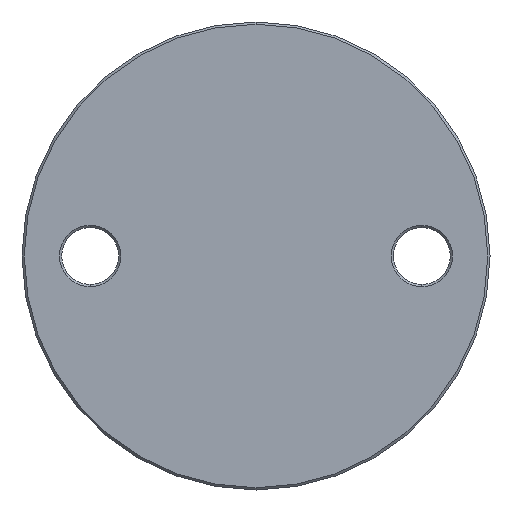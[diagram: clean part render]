
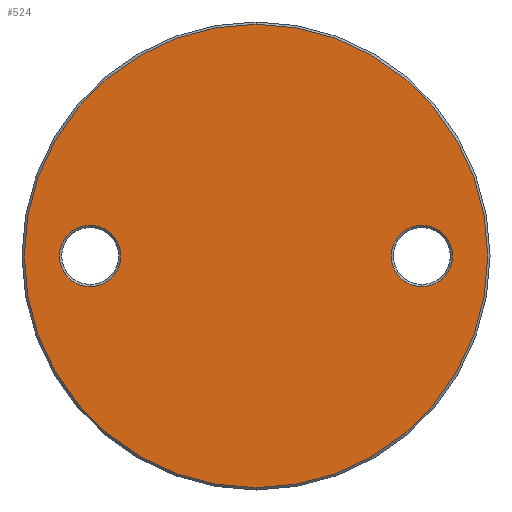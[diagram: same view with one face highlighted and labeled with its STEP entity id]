
A CAD part, front view. The second image highlights one B-rep face of the part: STEP entity #524.
In plain terms, the highlighted planar face has unit normal (0, -1, 0).
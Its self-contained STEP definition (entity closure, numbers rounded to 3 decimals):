
#308 = DIRECTION ( 'NONE',  ( 0., 1., 0. ) ) ;
#408 = FACE_OUTER_BOUND ( 'NONE', #1628, .T. ) ;
#411 = CARTESIAN_POINT ( 'NONE',  ( -36.5, -3., 0. ) ) ;
#437 = EDGE_CURVE ( 'NONE', #1285, #2777, #2104, .T. ) ;
#524 = ADVANCED_FACE ( 'NONE', ( #3980, #4149, #408 ), #2994, .T. ) ;
#546 = CARTESIAN_POINT ( 'NONE',  ( 0., -3., 51. ) ) ;
#689 = DIRECTION ( 'NONE',  ( 0., 0., -1. ) ) ;
#821 = VERTEX_POINT ( 'NONE', #3157 ) ;
#863 = EDGE_CURVE ( 'NONE', #821, #4047, #3787, .T. ) ;
#934 = DIRECTION ( 'NONE',  ( 0., -1., 0. ) ) ;
#935 = CARTESIAN_POINT ( 'NONE',  ( 36.5, -3., 0. ) ) ;
#943 = CARTESIAN_POINT ( 'NONE',  ( 36.5, -3., 6.75 ) ) ;
#996 = DIRECTION ( 'NONE',  ( 0., 0., -1. ) ) ;
#1019 = EDGE_LOOP ( 'NONE', ( #2332, #2993 ) ) ;
#1083 = DIRECTION ( 'NONE',  ( 0., -1., 0. ) ) ;
#1142 = DIRECTION ( 'NONE',  ( 0., 1., 0. ) ) ;
#1240 = CARTESIAN_POINT ( 'NONE',  ( -36.5, -3., 6.75 ) ) ;
#1261 = AXIS2_PLACEMENT_3D ( 'NONE', #2180, #1083, #2611 ) ;
#1285 = VERTEX_POINT ( 'NONE', #2067 ) ;
#1448 = CIRCLE ( 'NONE', #4790, 6.75 ) ;
#1505 = CARTESIAN_POINT ( 'NONE',  ( -36.5, -3., 0. ) ) ;
#1525 = AXIS2_PLACEMENT_3D ( 'NONE', #4652, #934, #996 ) ;
#1606 = CIRCLE ( 'NONE', #1880, 6.75 ) ;
#1628 = EDGE_LOOP ( 'NONE', ( #3776, #3149 ) ) ;
#1880 = AXIS2_PLACEMENT_3D ( 'NONE', #935, #4381, #689 ) ;
#2067 = CARTESIAN_POINT ( 'NONE',  ( 0., -3., -51. ) ) ;
#2104 = CIRCLE ( 'NONE', #1261, 51. ) ;
#2180 = CARTESIAN_POINT ( 'NONE',  ( 0., -3., 0. ) ) ;
#2200 = VERTEX_POINT ( 'NONE', #943 ) ;
#2225 = DIRECTION ( 'NONE',  ( 0., 0., -1. ) ) ;
#2282 = DIRECTION ( 'NONE',  ( 0., -1., 0. ) ) ;
#2332 = ORIENTED_EDGE ( 'NONE', *, *, #3114, .T. ) ;
#2530 = EDGE_CURVE ( 'NONE', #4047, #821, #1448, .T. ) ;
#2570 = AXIS2_PLACEMENT_3D ( 'NONE', #1505, #3249, #2608 ) ;
#2586 = CIRCLE ( 'NONE', #3872, 6.75 ) ;
#2608 = DIRECTION ( 'NONE',  ( 0., 0., -1. ) ) ;
#2611 = DIRECTION ( 'NONE',  ( 0., 0., -1. ) ) ;
#2777 = VERTEX_POINT ( 'NONE', #546 ) ;
#2877 = EDGE_LOOP ( 'NONE', ( #3215, #3915 ) ) ;
#2993 = ORIENTED_EDGE ( 'NONE', *, *, #3768, .T. ) ;
#2994 = PLANE ( 'NONE',  #3440 ) ;
#3114 = EDGE_CURVE ( 'NONE', #4833, #2200, #1606, .T. ) ;
#3149 = ORIENTED_EDGE ( 'NONE', *, *, #437, .T. ) ;
#3157 = CARTESIAN_POINT ( 'NONE',  ( -36.5, -3., -6.75 ) ) ;
#3215 = ORIENTED_EDGE ( 'NONE', *, *, #863, .T. ) ;
#3249 = DIRECTION ( 'NONE',  ( 0., 1., 0. ) ) ;
#3357 = DIRECTION ( 'NONE',  ( 0., 0., -1. ) ) ;
#3375 = CARTESIAN_POINT ( 'NONE',  ( 0., -3., 51.5 ) ) ;
#3440 = AXIS2_PLACEMENT_3D ( 'NONE', #3375, #2282, #3357 ) ;
#3751 = CIRCLE ( 'NONE', #1525, 51. ) ;
#3768 = EDGE_CURVE ( 'NONE', #2200, #4833, #2586, .T. ) ;
#3776 = ORIENTED_EDGE ( 'NONE', *, *, #4853, .T. ) ;
#3787 = CIRCLE ( 'NONE', #2570, 6.75 ) ;
#3857 = CARTESIAN_POINT ( 'NONE',  ( 36.5, -3., -6.75 ) ) ;
#3872 = AXIS2_PLACEMENT_3D ( 'NONE', #4025, #308, #4003 ) ;
#3915 = ORIENTED_EDGE ( 'NONE', *, *, #2530, .T. ) ;
#3980 = FACE_BOUND ( 'NONE', #1019, .T. ) ;
#4003 = DIRECTION ( 'NONE',  ( 0., 0., -1. ) ) ;
#4025 = CARTESIAN_POINT ( 'NONE',  ( 36.5, -3., 0. ) ) ;
#4047 = VERTEX_POINT ( 'NONE', #1240 ) ;
#4149 = FACE_BOUND ( 'NONE', #2877, .T. ) ;
#4381 = DIRECTION ( 'NONE',  ( 0., 1., 0. ) ) ;
#4652 = CARTESIAN_POINT ( 'NONE',  ( 0., -3., 0. ) ) ;
#4790 = AXIS2_PLACEMENT_3D ( 'NONE', #411, #1142, #2225 ) ;
#4833 = VERTEX_POINT ( 'NONE', #3857 ) ;
#4853 = EDGE_CURVE ( 'NONE', #2777, #1285, #3751, .T. ) ;
